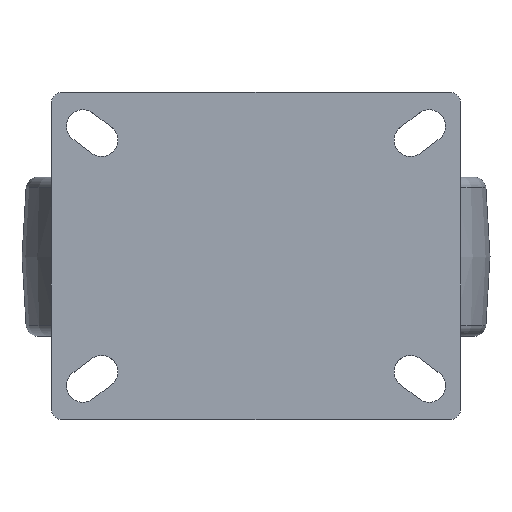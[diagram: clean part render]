
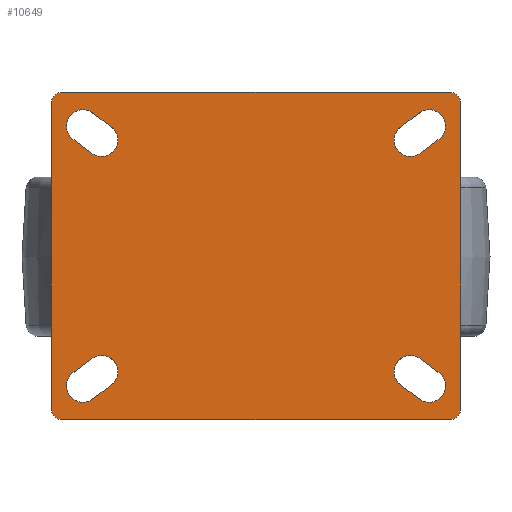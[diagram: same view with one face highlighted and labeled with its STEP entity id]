
A CAD part, top view. The second image highlights one B-rep face of the part: STEP entity #10649.
In plain terms, the highlighted planar face has unit normal (0, 0, 1).
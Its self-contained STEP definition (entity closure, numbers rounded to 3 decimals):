
#833=FACE_BOUND('',#2038,.T.);
#834=FACE_BOUND('',#2039,.T.);
#835=FACE_BOUND('',#2040,.T.);
#836=FACE_BOUND('',#2041,.T.);
#979=PLANE('',#11238);
#1401=FACE_OUTER_BOUND('',#2037,.T.);
#2037=EDGE_LOOP('',(#8702,#8703,#8704,#8705,#8706,#8707,#8708,#8709));
#2038=EDGE_LOOP('',(#8710,#8711,#8712,#8713));
#2039=EDGE_LOOP('',(#8714,#8715,#8716,#8717));
#2040=EDGE_LOOP('',(#8718,#8719,#8720,#8721));
#2041=EDGE_LOOP('',(#8722,#8723,#8724,#8725));
#2477=CIRCLE('',#11239,5.);
#2478=CIRCLE('',#11240,5.);
#2479=CIRCLE('',#11241,5.);
#2480=CIRCLE('',#11242,5.);
#2481=CIRCLE('',#11243,7.);
#2482=CIRCLE('',#11244,7.);
#2483=CIRCLE('',#11245,7.);
#2484=CIRCLE('',#11246,7.);
#2485=CIRCLE('',#11247,7.);
#2486=CIRCLE('',#11248,7.);
#2487=CIRCLE('',#11249,7.);
#2488=CIRCLE('',#11250,7.);
#3081=LINE('',#16663,#3997);
#3082=LINE('',#16667,#3998);
#3083=LINE('',#16671,#3999);
#3084=LINE('',#16675,#4000);
#3085=LINE('',#16681,#4001);
#3086=LINE('',#16684,#4002);
#3087=LINE('',#16689,#4003);
#3088=LINE('',#16692,#4004);
#3089=LINE('',#16697,#4005);
#3090=LINE('',#16700,#4006);
#3091=LINE('',#16705,#4007);
#3092=LINE('',#16708,#4008);
#3997=VECTOR('',#12540,10.);
#3998=VECTOR('',#12543,10.);
#3999=VECTOR('',#12546,10.);
#4000=VECTOR('',#12549,10.);
#4001=VECTOR('',#12554,10.);
#4002=VECTOR('',#12557,10.);
#4003=VECTOR('',#12560,10.);
#4004=VECTOR('',#12563,10.);
#4005=VECTOR('',#12566,10.);
#4006=VECTOR('',#12569,10.);
#4007=VECTOR('',#12572,10.);
#4008=VECTOR('',#12575,10.);
#5065=VERTEX_POINT('',#16661);
#5066=VERTEX_POINT('',#16662);
#5067=VERTEX_POINT('',#16664);
#5068=VERTEX_POINT('',#16666);
#5069=VERTEX_POINT('',#16668);
#5070=VERTEX_POINT('',#16670);
#5071=VERTEX_POINT('',#16672);
#5072=VERTEX_POINT('',#16674);
#5073=VERTEX_POINT('',#16677);
#5074=VERTEX_POINT('',#16678);
#5075=VERTEX_POINT('',#16680);
#5076=VERTEX_POINT('',#16682);
#5077=VERTEX_POINT('',#16685);
#5078=VERTEX_POINT('',#16686);
#5079=VERTEX_POINT('',#16688);
#5080=VERTEX_POINT('',#16690);
#5081=VERTEX_POINT('',#16693);
#5082=VERTEX_POINT('',#16694);
#5083=VERTEX_POINT('',#16696);
#5084=VERTEX_POINT('',#16698);
#5085=VERTEX_POINT('',#16701);
#5086=VERTEX_POINT('',#16702);
#5087=VERTEX_POINT('',#16704);
#5088=VERTEX_POINT('',#16706);
#6379=EDGE_CURVE('',#5065,#5066,#3081,.T.);
#6380=EDGE_CURVE('',#5066,#5067,#2477,.T.);
#6381=EDGE_CURVE('',#5067,#5068,#3082,.T.);
#6382=EDGE_CURVE('',#5068,#5069,#2478,.T.);
#6383=EDGE_CURVE('',#5069,#5070,#3083,.T.);
#6384=EDGE_CURVE('',#5070,#5071,#2479,.T.);
#6385=EDGE_CURVE('',#5071,#5072,#3084,.T.);
#6386=EDGE_CURVE('',#5072,#5065,#2480,.T.);
#6387=EDGE_CURVE('',#5073,#5074,#2481,.T.);
#6388=EDGE_CURVE('',#5074,#5075,#3085,.T.);
#6389=EDGE_CURVE('',#5075,#5076,#2482,.T.);
#6390=EDGE_CURVE('',#5076,#5073,#3086,.T.);
#6391=EDGE_CURVE('',#5077,#5078,#2483,.T.);
#6392=EDGE_CURVE('',#5078,#5079,#3087,.T.);
#6393=EDGE_CURVE('',#5079,#5080,#2484,.T.);
#6394=EDGE_CURVE('',#5080,#5077,#3088,.T.);
#6395=EDGE_CURVE('',#5081,#5082,#2485,.T.);
#6396=EDGE_CURVE('',#5082,#5083,#3089,.T.);
#6397=EDGE_CURVE('',#5083,#5084,#2486,.T.);
#6398=EDGE_CURVE('',#5084,#5081,#3090,.T.);
#6399=EDGE_CURVE('',#5085,#5086,#2487,.T.);
#6400=EDGE_CURVE('',#5086,#5087,#3091,.T.);
#6401=EDGE_CURVE('',#5087,#5088,#2488,.T.);
#6402=EDGE_CURVE('',#5088,#5085,#3092,.T.);
#8702=ORIENTED_EDGE('',*,*,#6379,.T.);
#8703=ORIENTED_EDGE('',*,*,#6380,.T.);
#8704=ORIENTED_EDGE('',*,*,#6381,.T.);
#8705=ORIENTED_EDGE('',*,*,#6382,.T.);
#8706=ORIENTED_EDGE('',*,*,#6383,.T.);
#8707=ORIENTED_EDGE('',*,*,#6384,.T.);
#8708=ORIENTED_EDGE('',*,*,#6385,.T.);
#8709=ORIENTED_EDGE('',*,*,#6386,.T.);
#8710=ORIENTED_EDGE('',*,*,#6387,.T.);
#8711=ORIENTED_EDGE('',*,*,#6388,.T.);
#8712=ORIENTED_EDGE('',*,*,#6389,.T.);
#8713=ORIENTED_EDGE('',*,*,#6390,.T.);
#8714=ORIENTED_EDGE('',*,*,#6391,.T.);
#8715=ORIENTED_EDGE('',*,*,#6392,.T.);
#8716=ORIENTED_EDGE('',*,*,#6393,.T.);
#8717=ORIENTED_EDGE('',*,*,#6394,.T.);
#8718=ORIENTED_EDGE('',*,*,#6395,.T.);
#8719=ORIENTED_EDGE('',*,*,#6396,.T.);
#8720=ORIENTED_EDGE('',*,*,#6397,.T.);
#8721=ORIENTED_EDGE('',*,*,#6398,.T.);
#8722=ORIENTED_EDGE('',*,*,#6399,.T.);
#8723=ORIENTED_EDGE('',*,*,#6400,.T.);
#8724=ORIENTED_EDGE('',*,*,#6401,.T.);
#8725=ORIENTED_EDGE('',*,*,#6402,.T.);
#10649=ADVANCED_FACE('',(#1401,#833,#834,#835,#836),#979,.T.);
#11238=AXIS2_PLACEMENT_3D('',#16660,#12538,#12539);
#11239=AXIS2_PLACEMENT_3D('',#16665,#12541,#12542);
#11240=AXIS2_PLACEMENT_3D('',#16669,#12544,#12545);
#11241=AXIS2_PLACEMENT_3D('',#16673,#12547,#12548);
#11242=AXIS2_PLACEMENT_3D('',#16676,#12550,#12551);
#11243=AXIS2_PLACEMENT_3D('',#16679,#12552,#12553);
#11244=AXIS2_PLACEMENT_3D('',#16683,#12555,#12556);
#11245=AXIS2_PLACEMENT_3D('',#16687,#12558,#12559);
#11246=AXIS2_PLACEMENT_3D('',#16691,#12561,#12562);
#11247=AXIS2_PLACEMENT_3D('',#16695,#12564,#12565);
#11248=AXIS2_PLACEMENT_3D('',#16699,#12567,#12568);
#11249=AXIS2_PLACEMENT_3D('',#16703,#12570,#12571);
#11250=AXIS2_PLACEMENT_3D('',#16707,#12573,#12574);
#12538=DIRECTION('center_axis',(0.,0.,1.));
#12539=DIRECTION('ref_axis',(1.,0.,0.));
#12540=DIRECTION('',(1.,0.,0.));
#12541=DIRECTION('center_axis',(0.,0.,1.));
#12542=DIRECTION('ref_axis',(0.,-1.,0.));
#12543=DIRECTION('',(0.,1.,0.));
#12544=DIRECTION('center_axis',(0.,0.,1.));
#12545=DIRECTION('ref_axis',(1.,0.,0.));
#12546=DIRECTION('',(-1.,0.,0.));
#12547=DIRECTION('center_axis',(0.,0.,1.));
#12548=DIRECTION('ref_axis',(0.,1.,0.));
#12549=DIRECTION('',(0.,-1.,0.));
#12550=DIRECTION('center_axis',(0.,0.,1.));
#12551=DIRECTION('ref_axis',(-1.,0.,0.));
#12552=DIRECTION('center_axis',(0.,0.,-1.));
#12553=DIRECTION('ref_axis',(0.6,-0.8,0.));
#12554=DIRECTION('',(0.8,0.6,0.));
#12555=DIRECTION('center_axis',(0.,0.,-1.));
#12556=DIRECTION('ref_axis',(-0.6,0.8,0.));
#12557=DIRECTION('',(-0.8,-0.6,0.));
#12558=DIRECTION('center_axis',(0.,0.,-1.));
#12559=DIRECTION('ref_axis',(-0.6,-0.8,0.));
#12560=DIRECTION('',(0.8,-0.6,0.));
#12561=DIRECTION('center_axis',(0.,0.,-1.));
#12562=DIRECTION('ref_axis',(0.6,0.8,0.));
#12563=DIRECTION('',(-0.8,0.6,0.));
#12564=DIRECTION('center_axis',(0.,0.,-1.));
#12565=DIRECTION('ref_axis',(0.6,-0.8,0.));
#12566=DIRECTION('',(0.8,0.6,0.));
#12567=DIRECTION('center_axis',(0.,0.,-1.));
#12568=DIRECTION('ref_axis',(-0.6,0.8,0.));
#12569=DIRECTION('',(-0.8,-0.6,0.));
#12570=DIRECTION('center_axis',(0.,0.,-1.));
#12571=DIRECTION('ref_axis',(0.6,0.8,0.));
#12572=DIRECTION('',(-0.8,0.6,0.));
#12573=DIRECTION('center_axis',(0.,0.,-1.));
#12574=DIRECTION('ref_axis',(-0.6,-0.8,0.));
#12575=DIRECTION('',(0.8,-0.6,0.));
#16660=CARTESIAN_POINT('Origin',(0.,0.,
10.));
#16661=CARTESIAN_POINT('',(-82.5,-70.,10.));
#16662=CARTESIAN_POINT('',(82.5,-70.,10.));
#16663=CARTESIAN_POINT('',(-82.5,-70.,10.));
#16664=CARTESIAN_POINT('',(87.5,-65.,10.));
#16665=CARTESIAN_POINT('Origin',(82.5,-65.,10.));
#16666=CARTESIAN_POINT('',(87.5,65.,10.));
#16667=CARTESIAN_POINT('',(87.5,-65.,10.));
#16668=CARTESIAN_POINT('',(82.5,70.,10.));
#16669=CARTESIAN_POINT('Origin',(82.5,65.,10.));
#16670=CARTESIAN_POINT('',(-82.5,70.,10.));
#16671=CARTESIAN_POINT('',(82.5,70.,10.));
#16672=CARTESIAN_POINT('',(-87.5,65.,10.));
#16673=CARTESIAN_POINT('Origin',(-82.5,65.,10.));
#16674=CARTESIAN_POINT('',(-87.5,-65.,10.));
#16675=CARTESIAN_POINT('',(-87.5,65.,10.));
#16676=CARTESIAN_POINT('Origin',(-82.5,-65.,10.));
#16677=CARTESIAN_POINT('',(-69.8,-61.1,10.));
#16678=CARTESIAN_POINT('',(-78.2,-49.9,10.));
#16679=CARTESIAN_POINT('Origin',(-74.,-55.5,10.));
#16680=CARTESIAN_POINT('',(-70.2,-43.9,10.));
#16681=CARTESIAN_POINT('',(-78.2,-49.9,10.));
#16682=CARTESIAN_POINT('',(-61.8,-55.1,10.));
#16683=CARTESIAN_POINT('Origin',(-66.,-49.5,10.));
#16684=CARTESIAN_POINT('',(-61.8,-55.1,10.));
#16685=CARTESIAN_POINT('',(-78.2,49.9,10.));
#16686=CARTESIAN_POINT('',(-69.8,61.1,10.));
#16687=CARTESIAN_POINT('Origin',(-74.,55.5,10.));
#16688=CARTESIAN_POINT('',(-61.8,55.1,10.));
#16689=CARTESIAN_POINT('',(-69.8,61.1,10.));
#16690=CARTESIAN_POINT('',(-70.2,43.9,10.));
#16691=CARTESIAN_POINT('Origin',(-66.,49.5,10.));
#16692=CARTESIAN_POINT('',(-70.2,43.9,10.));
#16693=CARTESIAN_POINT('',(70.2,43.9,10.));
#16694=CARTESIAN_POINT('',(61.8,55.1,10.));
#16695=CARTESIAN_POINT('Origin',(66.,49.5,10.));
#16696=CARTESIAN_POINT('',(69.8,61.1,10.));
#16697=CARTESIAN_POINT('',(61.8,55.1,10.));
#16698=CARTESIAN_POINT('',(78.2,49.9,10.));
#16699=CARTESIAN_POINT('Origin',(74.,55.5,10.));
#16700=CARTESIAN_POINT('',(78.2,49.9,10.));
#16701=CARTESIAN_POINT('',(78.2,-49.9,10.));
#16702=CARTESIAN_POINT('',(69.8,-61.1,10.));
#16703=CARTESIAN_POINT('Origin',(74.,-55.5,10.));
#16704=CARTESIAN_POINT('',(61.8,-55.1,10.));
#16705=CARTESIAN_POINT('',(69.8,-61.1,10.));
#16706=CARTESIAN_POINT('',(70.2,-43.9,10.));
#16707=CARTESIAN_POINT('Origin',(66.,-49.5,10.));
#16708=CARTESIAN_POINT('',(70.2,-43.9,10.));
